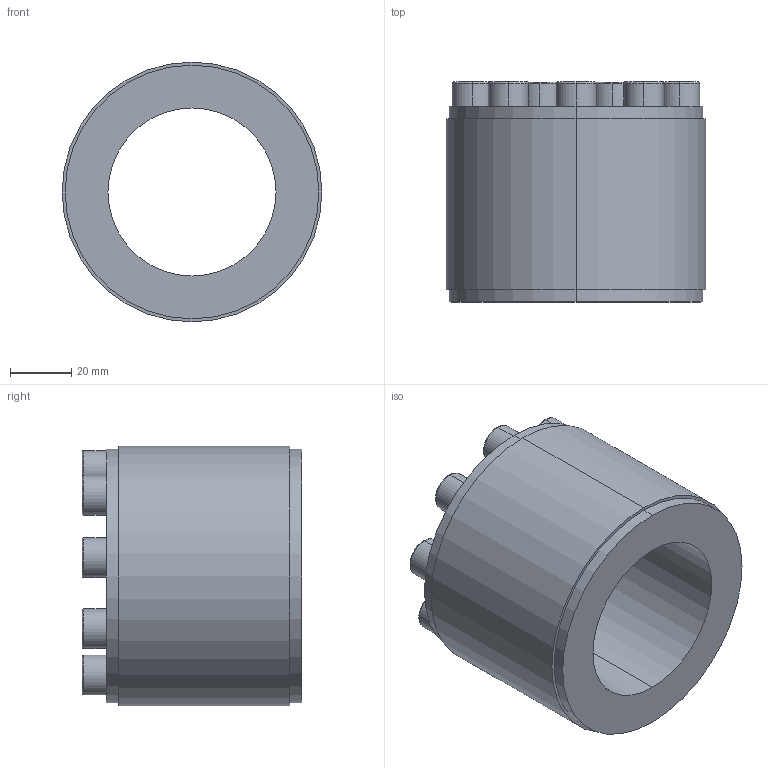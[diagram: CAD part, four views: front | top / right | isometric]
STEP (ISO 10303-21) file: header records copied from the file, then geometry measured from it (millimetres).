
FILE_DESCRIPTION (( 'STEP AP203' ), '1' );
FILE_NAME ('PL-D1 55-85.STEP', '2021-10-23T00:15:27', ( '' ), ( '' ), 'SwSTEP 2.0', 'SolidWorks 2018', '' );
FILE_SCHEMA (( 'CONFIG_CONTROL_DESIGN' ));
Length unit declared in the file: millimetre
Products named in the file (1): PL-D1 55-85
Bounding box: 85 x 72 x 85 mm (x, y, z)
Volume: 217418.9 mm3; surface area: 38304.6 mm2
Topology: 1 solids, 1 shells, 120 faces, 276 edges, 178 vertices
Faces by surface type: plane 76, cylinder 26, torus 18
Entity records: 3465 total; most frequent: DIRECTION 606, CARTESIAN_POINT 575, ORIENTED_EDGE 552, EDGE_CURVE 276, AXIS2_PLACEMENT_3D 209, LINE 188, VECTOR 188, VERTEX_POINT 178
